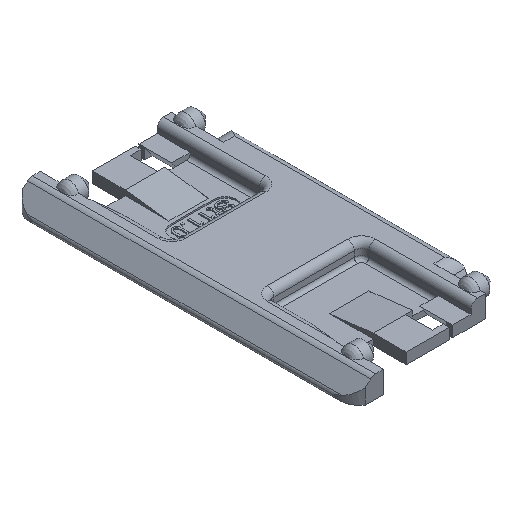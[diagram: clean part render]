
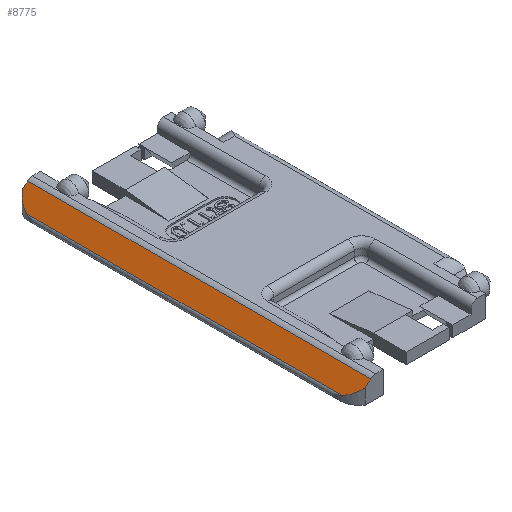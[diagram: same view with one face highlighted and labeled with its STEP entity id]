
A CAD part, isometric view. The second image highlights one B-rep face of the part: STEP entity #8775.
In plain terms, the highlighted planar face has unit normal (-0.669, 0, 0.743).
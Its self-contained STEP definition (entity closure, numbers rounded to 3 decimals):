
#109=CARTESIAN_POINT('',(-11.083,-21.521,-0.632));
#110=VERTEX_POINT('',#109);
#132=CARTESIAN_POINT('',(-11.083,21.521,-0.632));
#133=VERTEX_POINT('',#132);
#134=CARTESIAN_POINT('',(-11.083,-21.521,-0.632));
#135=DIRECTION('',(0.0,1.0,0.0));
#136=VECTOR('',#135,43.041);
#137=LINE('',#134,#136);
#138=EDGE_CURVE('',#110,#133,#137,.T.);
#661=CARTESIAN_POINT('',(-9.001,23.5,1.243));
#662=VERTEX_POINT('',#661);
#670=CARTESIAN_POINT('',(-9.001,-23.5,1.243));
#671=VERTEX_POINT('',#670);
#672=CARTESIAN_POINT('',(-9.001,23.5,1.243));
#673=DIRECTION('',(0.0,-1.0,0.0));
#674=VECTOR('',#673,47.);
#675=LINE('',#672,#674);
#676=EDGE_CURVE('',#662,#671,#675,.T.);
#3053=CARTESIAN_POINT('',(-9.75,-23.5,0.568));
#3054=VERTEX_POINT('',#3053);
#3055=CARTESIAN_POINT('',(-9.75,-23.5,0.568));
#3056=DIRECTION('',(0.743,0.,0.669));
#3057=VECTOR('',#3056,1.008);
#3058=LINE('',#3055,#3057);
#3059=EDGE_CURVE('',#3054,#671,#3058,.T.);
#3242=CARTESIAN_POINT('',(-7.25,-20.378,2.819));
#3243=DIRECTION('',(0.669,0.,-0.743));
#3244=DIRECTION('',(-0.743,0.,-0.669));
#3245=AXIS2_PLACEMENT_3D('',#3242,#3243,#3244);
#3246=ELLIPSE('',#3245,5.383,4.0);
#3247=EDGE_CURVE('',#3054,#110,#3246,.T.);
#8044=CARTESIAN_POINT('',(-9.75,23.5,0.568));
#8045=VERTEX_POINT('',#8044);
#8052=CARTESIAN_POINT('',(-9.75,23.5,0.568));
#8053=DIRECTION('',(0.743,0.0,0.669));
#8054=VECTOR('',#8053,1.008);
#8055=LINE('',#8052,#8054);
#8056=EDGE_CURVE('',#8045,#662,#8055,.T.);
#8353=CARTESIAN_POINT('',(-7.25,20.378,2.819));
#8354=DIRECTION('',(-0.669,0.0,0.743));
#8355=DIRECTION('',(-0.743,0.0,-0.669));
#8356=AXIS2_PLACEMENT_3D('',#8353,#8354,#8355);
#8357=ELLIPSE('',#8356,5.383,4.0);
#8358=EDGE_CURVE('',#8045,#133,#8357,.T.);
#8762=CARTESIAN_POINT('',(-8.715,23.5,1.5));
#8763=DIRECTION('',(0.669,0.0,-0.743));
#8764=DIRECTION('',(-0.743,0.0,-0.669));
#8765=AXIS2_PLACEMENT_3D('',#8762,#8763,#8764);
#8766=PLANE('',#8765);
#8767=ORIENTED_EDGE('',*,*,#676,.F.);
#8768=ORIENTED_EDGE('',*,*,#8056,.F.);
#8769=ORIENTED_EDGE('',*,*,#8358,.T.);
#8770=ORIENTED_EDGE('',*,*,#138,.F.);
#8771=ORIENTED_EDGE('',*,*,#3247,.F.);
#8772=ORIENTED_EDGE('',*,*,#3059,.T.);
#8773=EDGE_LOOP('',(#8767,#8768,#8769,#8770,#8771,#8772));
#8774=FACE_OUTER_BOUND('',#8773,.T.);
#8775=ADVANCED_FACE('',(#8774),#8766,.F.);
